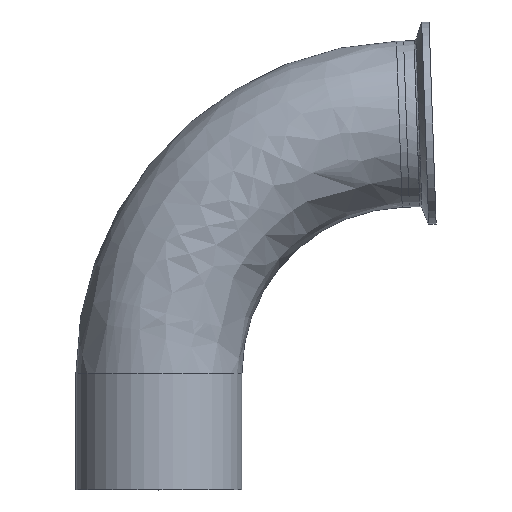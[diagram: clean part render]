
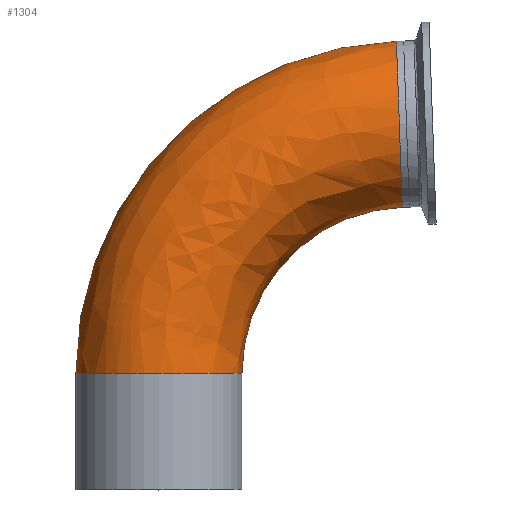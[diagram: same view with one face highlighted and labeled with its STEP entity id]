
A CAD part, top view. The second image highlights one B-rep face of the part: STEP entity #1304.
In plain terms, the highlighted free-form (B-spline) face has degree [3, 3] with [4, 4] control points.
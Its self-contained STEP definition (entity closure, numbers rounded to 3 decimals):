
#5 = CARTESIAN_POINT ( 'NONE',  ( -31.75, 44.574, 63.5 ) ) ;
#10 = DIRECTION ( 'NONE',  ( -0.035, 0.999, 0. ) ) ;
#12 = CARTESIAN_POINT ( 'NONE',  ( -31.75, 116.926, 63.5 ) ) ;
#64 = CARTESIAN_POINT ( 'NONE',  ( 90.818, 171.496, 0. ) ) ;
#79 = CARTESIAN_POINT ( 'NONE',  ( -31.75, 44.574, 0. ) ) ;
#93 = CARTESIAN_POINT ( 'NONE',  ( 18.51, 168.971, 0. ) ) ;
#119 = DIRECTION ( 'NONE',  ( -1., 0., 0. ) ) ;
#126 = DIRECTION ( 'NONE',  ( 0., 1., 0. ) ) ;
#140 = EDGE_CURVE ( 'NONE', #214, #1440, #513, .T. ) ;
#162 = CARTESIAN_POINT ( 'NONE',  ( 18.51, 168.971, 63.5 ) ) ;
#167 = CARTESIAN_POINT ( 'NONE',  ( 0., 44.574, 0. ) ) ;
#169 = CARTESIAN_POINT ( 'NONE',  ( 90.818, 171.496, 63.5 ) ) ;
#176 = CARTESIAN_POINT ( 'NONE',  ( 31.75, 44.574, 63.5 ) ) ;
#183 = CARTESIAN_POINT ( 'NONE',  ( 31.75, 80.75, 63.5 ) ) ;
#214 = VERTEX_POINT ( 'NONE', #221 ) ;
#221 = CARTESIAN_POINT ( 'NONE',  ( 93.034, 108.035, 0. ) ) ;
#250 = ORIENTED_EDGE ( 'NONE', *, *, #847, .F. ) ;
#313 = CARTESIAN_POINT ( 'NONE',  ( 56.88, 106.772, 63.5 ) ) ;
#314 = EDGE_CURVE ( 'NONE', #1384, #214, #1091, .T. ) ;
#329 = CARTESIAN_POINT ( 'NONE',  ( 93.034, 108.035, 63.5 ) ) ;
#426 = CIRCLE ( 'NONE', #913, 127. ) ;
#481 = FACE_OUTER_BOUND ( 'NONE', #1065, .T. ) ;
#513 = CIRCLE ( 'NONE', #908, 31.75 ) ;
#573 = VERTEX_POINT ( 'NONE', #79 ) ;
#614 = CARTESIAN_POINT ( 'NONE',  ( 93.034, 108.035, 0. ) ) ;
#653 = CIRCLE ( 'NONE', #937, 31.75 ) ;
#659 = DIRECTION ( 'NONE',  ( -1., 0., 0. ) ) ;
#720 = CARTESIAN_POINT ( 'NONE',  ( -31.75, 116.926, 0. ) ) ;
#750 = DIRECTION ( 'NONE',  ( 0., 0., -1. ) ) ;
#758 = CARTESIAN_POINT ( 'NONE',  ( 95.25, 44.574, 0. ) ) ;
#847 = EDGE_CURVE ( 'NONE', #573, #1440, #426, .T. ) ;
#908 = AXIS2_PLACEMENT_3D ( 'NONE', #1690, #1212, #10 ) ;
#913 = AXIS2_PLACEMENT_3D ( 'NONE', #758, #750, #659 ) ;
#931 =( BOUNDED_SURFACE ( )  B_SPLINE_SURFACE ( 3, 3, ( 
 ( #1621, #720, #93, #64 ),
 ( #5, #12, #162, #169 ),
 ( #176, #183, #313, #329 ),
 ( #1369, #1375, #1382, #614 ) ),
 .UNSPECIFIED., .F., .F., .F. ) 
 B_SPLINE_SURFACE_WITH_KNOTS ( ( 4, 4 ),
 ( 4, 4 ),
 ( 0., 1. ),
 ( 0., 1. ),
 .UNSPECIFIED. ) 
 GEOMETRIC_REPRESENTATION_ITEM ( )  RATIONAL_B_SPLINE_SURFACE ( (
 ( 1., 0.813, 0.813, 1.),
 ( 0.333, 0.271, 0.271, 0.333),
 ( 0.333, 0.271, 0.271, 0.333),
 ( 1., 0.813, 0.813, 1.) ) ) 
 REPRESENTATION_ITEM ( '' )  SURFACE ( )  );
#937 = AXIS2_PLACEMENT_3D ( 'NONE', #167, #126, #119 ) ;
#961 = DIRECTION ( 'NONE',  ( -1., 0., 0. ) ) ;
#971 = DIRECTION ( 'NONE',  ( 0., 0., -1. ) ) ;
#979 = CARTESIAN_POINT ( 'NONE',  ( 95.25, 44.574, 0. ) ) ;
#985 = ORIENTED_EDGE ( 'NONE', *, *, #314, .T. ) ;
#1065 = EDGE_LOOP ( 'NONE', ( #1387, #985, #1347, #250 ) ) ;
#1076 = AXIS2_PLACEMENT_3D ( 'NONE', #979, #971, #961 ) ;
#1091 = CIRCLE ( 'NONE', #1076, 63.5 ) ;
#1212 = DIRECTION ( 'NONE',  ( -0.999, -0.035, 0. ) ) ;
#1304 = ADVANCED_FACE ( 'NONE', ( #481 ), #931, .T. ) ;
#1347 = ORIENTED_EDGE ( 'NONE', *, *, #140, .T. ) ;
#1369 = CARTESIAN_POINT ( 'NONE',  ( 31.75, 44.574, 0. ) ) ;
#1375 = CARTESIAN_POINT ( 'NONE',  ( 31.75, 80.75, 0. ) ) ;
#1382 = CARTESIAN_POINT ( 'NONE',  ( 56.88, 106.772, 0. ) ) ;
#1384 = VERTEX_POINT ( 'NONE', #1388 ) ;
#1387 = ORIENTED_EDGE ( 'NONE', *, *, #1754, .T. ) ;
#1388 = CARTESIAN_POINT ( 'NONE',  ( 31.75, 44.574, 0. ) ) ;
#1440 = VERTEX_POINT ( 'NONE', #1556 ) ;
#1556 = CARTESIAN_POINT ( 'NONE',  ( 90.818, 171.496, 0. ) ) ;
#1621 = CARTESIAN_POINT ( 'NONE',  ( -31.75, 44.574, 0. ) ) ;
#1690 = CARTESIAN_POINT ( 'NONE',  ( 91.926, 139.766, 0. ) ) ;
#1754 = EDGE_CURVE ( 'NONE', #573, #1384, #653, .T. ) ;
